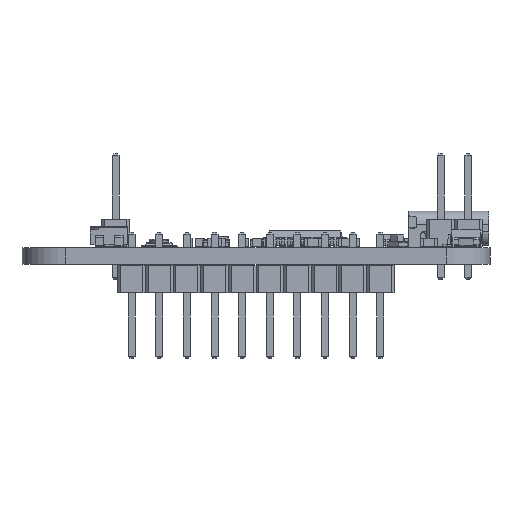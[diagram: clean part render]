
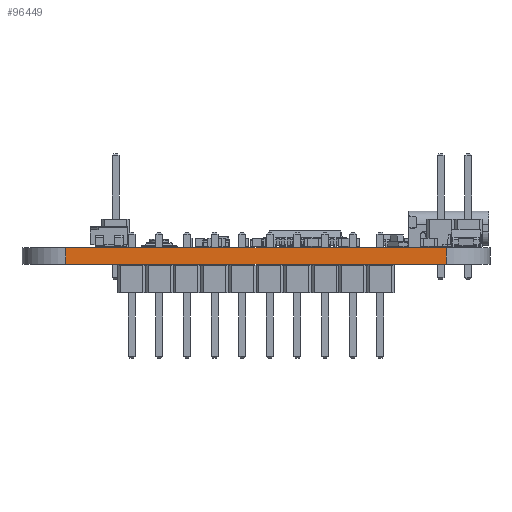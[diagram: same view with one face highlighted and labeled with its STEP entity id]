
A CAD part, front view. The second image highlights one B-rep face of the part: STEP entity #96449.
In plain terms, the highlighted planar face has unit normal (0, -1, 0).
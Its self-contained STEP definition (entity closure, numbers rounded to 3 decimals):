
#94380 = VERTEX_POINT('',#94381);
#94381 = CARTESIAN_POINT('',(-17.5,-19.,0.));
#94388 = EDGE_CURVE('',#94389,#94380,#94391,.T.);
#94389 = VERTEX_POINT('',#94390);
#94390 = CARTESIAN_POINT('',(17.5,-19.,0.));
#94391 = LINE('',#94392,#94393);
#94392 = CARTESIAN_POINT('',(17.5,-19.,0.));
#94393 = VECTOR('',#94394,1.);
#94394 = DIRECTION('',(-1.,0.,0.));
#95401 = VERTEX_POINT('',#95402);
#95402 = CARTESIAN_POINT('',(-17.5,-19.,1.51));
#95409 = EDGE_CURVE('',#95410,#95401,#95412,.T.);
#95410 = VERTEX_POINT('',#95411);
#95411 = CARTESIAN_POINT('',(17.5,-19.,1.51));
#95412 = LINE('',#95413,#95414);
#95413 = CARTESIAN_POINT('',(17.5,-19.,1.51));
#95414 = VECTOR('',#95415,1.);
#95415 = DIRECTION('',(-1.,0.,0.));
#96421 = EDGE_CURVE('',#94389,#95410,#96422,.T.);
#96422 = LINE('',#96423,#96424);
#96423 = CARTESIAN_POINT('',(17.5,-19.,0.));
#96424 = VECTOR('',#96425,1.);
#96425 = DIRECTION('',(0.,0.,1.));
#96449 = ADVANCED_FACE('',(#96450),#96461,.T.);
#96450 = FACE_BOUND('',#96451,.T.);
#96451 = EDGE_LOOP('',(#96452,#96453,#96454,#96460));
#96452 = ORIENTED_EDGE('',*,*,#96421,.T.);
#96453 = ORIENTED_EDGE('',*,*,#95409,.T.);
#96454 = ORIENTED_EDGE('',*,*,#96455,.F.);
#96455 = EDGE_CURVE('',#94380,#95401,#96456,.T.);
#96456 = LINE('',#96457,#96458);
#96457 = CARTESIAN_POINT('',(-17.5,-19.,0.));
#96458 = VECTOR('',#96459,1.);
#96459 = DIRECTION('',(0.,0.,1.));
#96460 = ORIENTED_EDGE('',*,*,#94388,.F.);
#96461 = PLANE('',#96462);
#96462 = AXIS2_PLACEMENT_3D('',#96463,#96464,#96465);
#96463 = CARTESIAN_POINT('',(17.5,-19.,0.));
#96464 = DIRECTION('',(0.,-1.,0.));
#96465 = DIRECTION('',(-1.,0.,0.));
